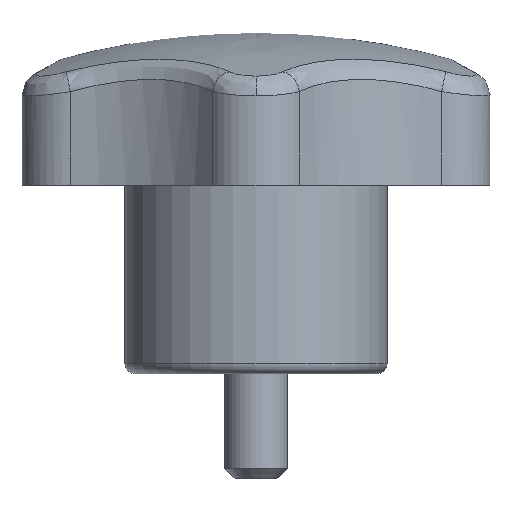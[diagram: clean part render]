
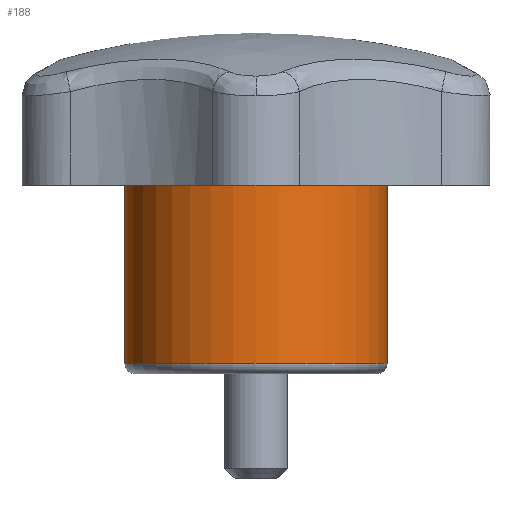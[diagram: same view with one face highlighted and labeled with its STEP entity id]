
A CAD part, left-side view. The second image highlights one B-rep face of the part: STEP entity #188.
In plain terms, the highlighted cylindrical face has radius 12.5 mm (diameter 25 mm), a full revolution.
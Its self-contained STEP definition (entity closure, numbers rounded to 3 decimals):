
#152=CARTESIAN_POINT('',(-12.5,0.,18.));
#153=VERTEX_POINT('',#152);
#154=CARTESIAN_POINT('',(0.,0.,18.));
#155=DIRECTION('',(-1.,0.,0.));
#156=DIRECTION('',(0.,0.,1.));
#157=AXIS2_PLACEMENT_3D('',#154,#156,#155);
#158=CIRCLE('',#157,12.5);
#159=EDGE_CURVE('',#153,#153,#158,.T.);
#164=CARTESIAN_POINT('',(0.,0.,18.));
#165=DIRECTION('',(-1.,0.,0.));
#166=DIRECTION('',(0.,0.,-1.));
#167=AXIS2_PLACEMENT_3D('',#164,#166,#165);
#168=CYLINDRICAL_SURFACE('',#167,12.5);
#169=CARTESIAN_POINT('',(-12.5,0.,1.));
#170=VERTEX_POINT('',#169);
#171=CARTESIAN_POINT('',(-12.5,0.,18.));
#172=DIRECTION('',(0.,0.,-1.));
#173=VECTOR('',#172,17.);
#174=LINE('',#171,#173);
#175=EDGE_CURVE('',#153,#170,#174,.T.);
#176=ORIENTED_EDGE('E55',*,*,#175,.T.);
#177=CARTESIAN_POINT('',(0.,0.,1.));
#178=DIRECTION('',(-1.,0.,0.));
#179=DIRECTION('',(0.,0.,1.));
#180=AXIS2_PLACEMENT_3D('',#177,#179,#178);
#181=CIRCLE('',#180,12.5);
#182=EDGE_CURVE('',#170,#170,#181,.T.);
#183=ORIENTED_EDGE('E84',*,*,#182,.T.);
#184=ORIENTED_EDGE('E84',*,*,#175,.F.);
#185=ORIENTED_EDGE('E84',*,*,#159,.F.);
#186=EDGE_LOOP('',(#176,#183,#184,#185));
#187=FACE_OUTER_BOUND('',#186,.T.);
#188=ADVANCED_FACE('F50',(#187),#168,.T.);
